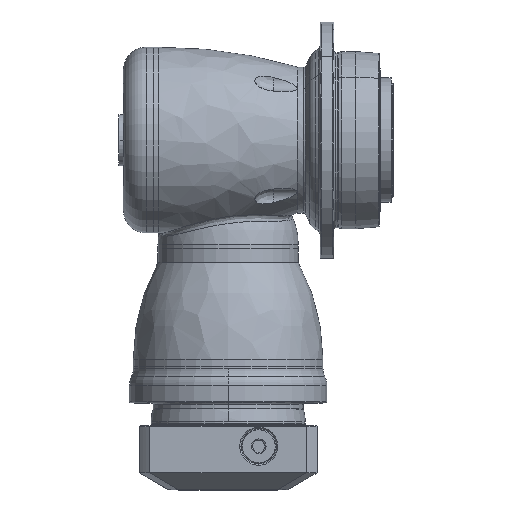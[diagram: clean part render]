
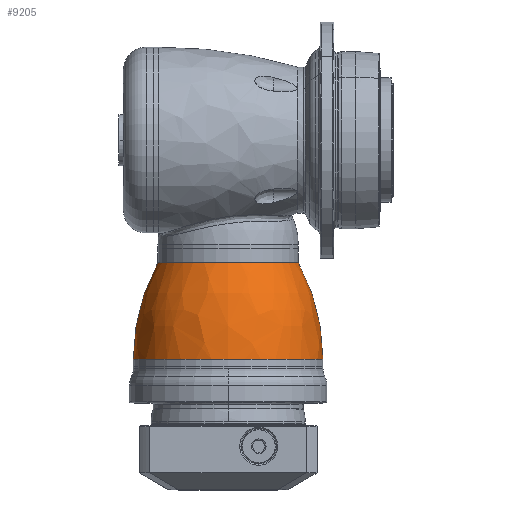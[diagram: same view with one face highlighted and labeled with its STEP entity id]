
A CAD part, top view. The second image highlights one B-rep face of the part: STEP entity #9205.
In plain terms, the highlighted free-form (B-spline) face has degree [3, 3] with [7, 4] control points.
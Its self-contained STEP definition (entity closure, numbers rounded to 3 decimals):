
#9034=CARTESIAN_POINT('',(-3.5,0.,0.));
#9035=DIRECTION('',(1.,0.,0.));
#9036=DIRECTION('',(0.,1.,0.));
#9037=AXIS2_PLACEMENT_3D('',#9034,#9035,#9036);
#9044=CARTESIAN_POINT('',(-52.388,0.,0.));
#9045=DIRECTION('',(-1.,0.,0.));
#9046=DIRECTION('',(0.,-1.,0.));
#9047=AXIS2_PLACEMENT_3D('',#9044,#9045,#9046);
#9049=CARTESIAN_POINT('',(-3.5,-54.29,0.));
#9050=DIRECTION('',(0.,0.,-1.));
#9051=DIRECTION('',(-0.478,0.878,0.));
#9052=AXIS2_PLACEMENT_3D('',#9049,#9050,#9051);
#9054=CARTESIAN_POINT('',(-3.5,54.29,0.));
#9055=DIRECTION('',(0.,0.,1.));
#9056=DIRECTION('',(-0.478,-0.878,0.));
#9057=AXIS2_PLACEMENT_3D('',#9054,#9055,#9056);
#9124=CARTESIAN_POINT('',(-3.5,48.,0.));
#9125=CARTESIAN_POINT('',(-3.5,-48.,0.));
#9126=VERTEX_POINT('',#9124);
#9127=VERTEX_POINT('',#9125);
#9132=CARTESIAN_POINT('',(-52.388,35.561,0.));
#9133=CARTESIAN_POINT('',(-52.388,-35.561,0.));
#9134=VERTEX_POINT('',#9132);
#9135=VERTEX_POINT('',#9133);
#9167=CARTESIAN_POINT('',(-2.481,-47.9,
-3.014));
#9168=CARTESIAN_POINT('',(-20.351,-48.078,
-3.025));
#9169=CARTESIAN_POINT('',(-37.67,-43.68,
-2.748));
#9170=CARTESIAN_POINT('',(-53.281,-35.,
-2.202));
#9171=CARTESIAN_POINT('',(-2.481,-49.755,
26.464));
#9172=CARTESIAN_POINT('',(-20.351,-49.939,
26.562));
#9173=CARTESIAN_POINT('',(-37.67,-45.371,
24.132));
#9174=CARTESIAN_POINT('',(-53.281,-36.355,
19.337));
#9175=CARTESIAN_POINT('',(-2.481,-29.536,
47.995));
#9176=CARTESIAN_POINT('',(-20.351,-29.646,
48.173));
#9177=CARTESIAN_POINT('',(-37.67,-26.934,
43.766));
#9178=CARTESIAN_POINT('',(-53.281,-21.581,
35.069));
#9179=CARTESIAN_POINT('',(-2.481,0.,
47.995));
#9180=CARTESIAN_POINT('',(-20.351,0.,
48.173));
#9181=CARTESIAN_POINT('',(-37.67,0.,
43.766));
#9182=CARTESIAN_POINT('',(-53.281,0.,
35.069));
#9183=CARTESIAN_POINT('',(-2.481,29.536,47.995));
#9184=CARTESIAN_POINT('',(-20.351,29.646,48.173));
#9185=CARTESIAN_POINT('',(-37.67,26.934,43.766));
#9186=CARTESIAN_POINT('',(-53.281,21.581,35.069));
#9187=CARTESIAN_POINT('',(-2.481,49.755,26.464));
#9188=CARTESIAN_POINT('',(-20.351,49.939,26.562));
#9189=CARTESIAN_POINT('',(-37.67,45.371,24.132));
#9190=CARTESIAN_POINT('',(-53.281,36.355,19.337));
#9191=CARTESIAN_POINT('',(-2.481,47.9,
-3.014));
#9192=CARTESIAN_POINT('',(-20.351,48.078,
-3.025));
#9193=CARTESIAN_POINT('',(-37.67,43.68,
-2.748));
#9194=CARTESIAN_POINT('',(-53.281,35.,
-2.202));
#9195=(BOUNDED_SURFACE()B_SPLINE_SURFACE(3,3,((#9167,#9168,#9169,#9170),(#9171,
#9172,#9173,#9174),(#9175,#9176,#9177,#9178),(#9179,#9180,#9181,#9182),(#9183,
#9184,#9185,#9186),(#9187,#9188,#9189,#9190),(#9191,#9192,#9193,#9194)),
.UNSPECIFIED.,.F.,.F.,.F.)B_SPLINE_SURFACE_WITH_KNOTS((4,3,4),(4,4),(0.,1.,
2.),(0.,1.),.UNSPECIFIED.)GEOMETRIC_REPRESENTATION_ITEM()RATIONAL_B_SPLINE_SURFACE(((1.207,1.181,1.181,1.207),(
0.953,0.932,0.932,0.953),(
0.953,0.932,0.932,0.953),(
1.207,1.181,1.181,1.207),(
0.953,0.932,0.932,0.953),(
0.953,0.932,0.932,0.953),(
1.207,1.181,1.181,1.207)))REPRESENTATION_ITEM('')SURFACE());
#9197=ORIENTED_EDGE('',*,*,#9196,.T.);
#9199=ORIENTED_EDGE('',*,*,#9198,.T.);
#9200=ORIENTED_EDGE('',*,*,#9157,.T.);
#9202=ORIENTED_EDGE('',*,*,#9201,.F.);
#9203=EDGE_LOOP('',(#9197,#9199,#9200,#9202));
#9204=FACE_OUTER_BOUND('',#9203,.F.);
#9205=ADVANCED_FACE('',(#9204),#9195,.T.);
#9038=CIRCLE('',#9037,48.);
#9048=CIRCLE('',#9047,35.561);
#9053=CIRCLE('',#9052,102.29);
#9058=CIRCLE('',#9057,102.29);
#9157=EDGE_CURVE('',#9126,#9127,#9038,.T.);
#9196=EDGE_CURVE('',#9135,#9134,#9048,.T.);
#9198=EDGE_CURVE('',#9134,#9126,#9053,.T.);
#9201=EDGE_CURVE('',#9135,#9127,#9058,.T.);
